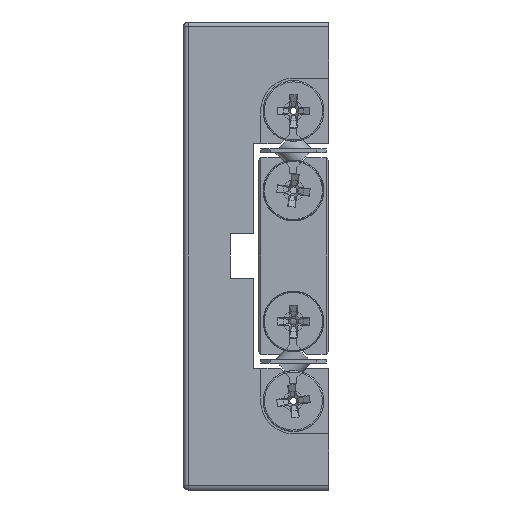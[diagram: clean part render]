
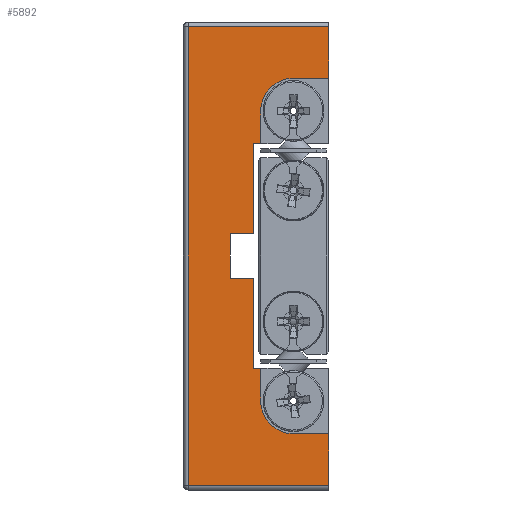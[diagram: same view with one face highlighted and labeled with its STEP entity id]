
A CAD part, left-side view. The second image highlights one B-rep face of the part: STEP entity #5892.
In plain terms, the highlighted planar face has unit normal (-1, 0, 0).
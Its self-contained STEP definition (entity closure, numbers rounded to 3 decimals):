
#22 = DIRECTION ( 'NONE',  ( 0., 0., -1. ) ) ;
#247 = EDGE_CURVE ( 'NONE', #16415, #3803, #748, .T. ) ;
#276 = DIRECTION ( 'NONE',  ( 0., 0., -1. ) ) ;
#320 = VECTOR ( 'NONE', #23312, 1000. ) ;
#398 = DIRECTION ( 'NONE',  ( 0., 0., -1. ) ) ;
#401 = VERTEX_POINT ( 'NONE', #5344 ) ;
#404 = ORIENTED_EDGE ( 'NONE', *, *, #6374, .F. ) ;
#555 = VERTEX_POINT ( 'NONE', #12155 ) ;
#748 = CIRCLE ( 'NONE', #1027, 7. ) ;
#926 = VECTOR ( 'NONE', #24971, 1000. ) ;
#934 = CARTESIAN_POINT ( 'NONE',  ( -248.819, 51.779, 4.75 ) ) ;
#1024 = DIRECTION ( 'NONE',  ( 0., 1., 0. ) ) ;
#1027 = AXIS2_PLACEMENT_3D ( 'NONE', #18442, #22848, #18034 ) ;
#1187 = LINE ( 'NONE', #26079, #22745 ) ;
#1247 = CARTESIAN_POINT ( 'NONE',  ( -248.819, 50.279, 31. ) ) ;
#1712 = LINE ( 'NONE', #10608, #23287 ) ;
#1917 = VERTEX_POINT ( 'NONE', #22207 ) ;
#2219 = ORIENTED_EDGE ( 'NONE', *, *, #21297, .F. ) ;
#2349 = CARTESIAN_POINT ( 'NONE',  ( -248.819, 66.779, -49. ) ) ;
#2565 = CARTESIAN_POINT ( 'NONE',  ( -248.819, 56.779, -4.75 ) ) ;
#2797 = CARTESIAN_POINT ( 'NONE',  ( -248.819, 51.779, -4.75 ) ) ;
#3067 = VERTEX_POINT ( 'NONE', #934 ) ;
#3151 = ORIENTED_EDGE ( 'NONE', *, *, #12733, .T. ) ;
#3214 = VERTEX_POINT ( 'NONE', #9626 ) ;
#3320 = DIRECTION ( 'NONE',  ( 0., 0., -1. ) ) ;
#3615 = EDGE_CURVE ( 'NONE', #24808, #555, #5161, .T. ) ;
#3640 = VERTEX_POINT ( 'NONE', #23954 ) ;
#3782 = LINE ( 'NONE', #2565, #25386 ) ;
#3803 = VERTEX_POINT ( 'NONE', #12165 ) ;
#4133 = VERTEX_POINT ( 'NONE', #15377 ) ;
#4329 = ORIENTED_EDGE ( 'NONE', *, *, #15708, .F. ) ;
#4439 = DIRECTION ( 'NONE',  ( 0., -1., 0. ) ) ;
#4633 = DIRECTION ( 'NONE',  ( 0., 0., -1. ) ) ;
#4756 = ORIENTED_EDGE ( 'NONE', *, *, #7837, .F. ) ;
#5156 = EDGE_CURVE ( 'NONE', #555, #10830, #1187, .T. ) ;
#5161 = LINE ( 'NONE', #13492, #10706 ) ;
#5177 = VERTEX_POINT ( 'NONE', #9394 ) ;
#5344 = CARTESIAN_POINT ( 'NONE',  ( -248.819, 35.779, -49. ) ) ;
#5518 = CARTESIAN_POINT ( 'NONE',  ( -248.819, 43.279, -31. ) ) ;
#5780 = CARTESIAN_POINT ( 'NONE',  ( -248.819, 56.779, -4.75 ) ) ;
#5815 = CARTESIAN_POINT ( 'NONE',  ( -248.819, 43.279, 38. ) ) ;
#5892 = ADVANCED_FACE ( 'NONE', ( #16788 ), #16843, .F. ) ;
#5953 = EDGE_CURVE ( 'NONE', #17333, #5177, #26654, .T. ) ;
#6089 = CARTESIAN_POINT ( 'NONE',  ( -248.819, 65.779, -49. ) ) ;
#6203 = DIRECTION ( 'NONE',  ( 0., 0., -1. ) ) ;
#6270 = CARTESIAN_POINT ( 'NONE',  ( -248.819, 50.279, -31. ) ) ;
#6374 = EDGE_CURVE ( 'NONE', #16834, #1917, #10714, .T. ) ;
#6403 = ORIENTED_EDGE ( 'NONE', *, *, #15424, .F. ) ;
#7254 = CARTESIAN_POINT ( 'NONE',  ( -248.819, 56.779, 4.75 ) ) ;
#7644 = CARTESIAN_POINT ( 'NONE',  ( -248.819, 50.279, 24. ) ) ;
#7651 = DIRECTION ( 'NONE',  ( 0., 0., 1. ) ) ;
#7790 = VECTOR ( 'NONE', #22, 1000. ) ;
#7837 = EDGE_CURVE ( 'NONE', #5177, #3640, #24459, .T. ) ;
#8143 = LINE ( 'NONE', #2797, #13664 ) ;
#8914 = ORIENTED_EDGE ( 'NONE', *, *, #14660, .F. ) ;
#9362 = EDGE_CURVE ( 'NONE', #3214, #24808, #18799, .T. ) ;
#9394 = CARTESIAN_POINT ( 'NONE',  ( -248.819, 50.279, -24. ) ) ;
#9538 = CIRCLE ( 'NONE', #26487, 7. ) ;
#9626 = CARTESIAN_POINT ( 'NONE',  ( -248.819, 35.779, 38. ) ) ;
#10264 = ORIENTED_EDGE ( 'NONE', *, *, #22118, .F. ) ;
#10313 = EDGE_CURVE ( 'NONE', #24350, #17333, #20717, .T. ) ;
#10608 = CARTESIAN_POINT ( 'NONE',  ( -248.819, 56.779, 4.75 ) ) ;
#10706 = VECTOR ( 'NONE', #17898, 1000. ) ;
#10714 = LINE ( 'NONE', #14340, #21206 ) ;
#10830 = VERTEX_POINT ( 'NONE', #6089 ) ;
#10951 = VECTOR ( 'NONE', #1024, 1000. ) ;
#11080 = VECTOR ( 'NONE', #3320, 1000. ) ;
#11387 = DIRECTION ( 'NONE',  ( 0., 0., -1. ) ) ;
#11554 = ORIENTED_EDGE ( 'NONE', *, *, #10313, .F. ) ;
#11605 = LINE ( 'NONE', #26087, #10951 ) ;
#11986 = LINE ( 'NONE', #22854, #926 ) ;
#12004 = CARTESIAN_POINT ( 'NONE',  ( -248.819, 35.779, -50. ) ) ;
#12155 = CARTESIAN_POINT ( 'NONE',  ( -248.819, 65.779, 49. ) ) ;
#12165 = CARTESIAN_POINT ( 'NONE',  ( -248.819, 50.279, 31. ) ) ;
#12291 = AXIS2_PLACEMENT_3D ( 'NONE', #21070, #12707, #276 ) ;
#12689 = DIRECTION ( 'NONE',  ( 0., 1., 0. ) ) ;
#12707 = DIRECTION ( 'NONE',  ( 1., 0., 0. ) ) ;
#12733 = EDGE_CURVE ( 'NONE', #10830, #401, #26488, .T. ) ;
#12765 = ORIENTED_EDGE ( 'NONE', *, *, #5156, .T. ) ;
#12893 = CARTESIAN_POINT ( 'NONE',  ( -248.819, 35.779, -24. ) ) ;
#13205 = VECTOR ( 'NONE', #16225, 1000. ) ;
#13492 = CARTESIAN_POINT ( 'NONE',  ( -248.819, 66.779, 49. ) ) ;
#13516 = CARTESIAN_POINT ( 'NONE',  ( -248.819, 35.779, 49. ) ) ;
#13664 = VECTOR ( 'NONE', #19526, 1000. ) ;
#13986 = VERTEX_POINT ( 'NONE', #7644 ) ;
#14340 = CARTESIAN_POINT ( 'NONE',  ( -248.819, 43.279, -38. ) ) ;
#14499 = CARTESIAN_POINT ( 'NONE',  ( -248.819, 51.779, -24. ) ) ;
#14603 = ORIENTED_EDGE ( 'NONE', *, *, #17596, .T. ) ;
#14660 = EDGE_CURVE ( 'NONE', #4133, #3067, #25603, .T. ) ;
#14830 = ORIENTED_EDGE ( 'NONE', *, *, #9362, .T. ) ;
#15377 = CARTESIAN_POINT ( 'NONE',  ( -248.819, 51.779, 24. ) ) ;
#15424 = EDGE_CURVE ( 'NONE', #3640, #16834, #9538, .T. ) ;
#15708 = EDGE_CURVE ( 'NONE', #3067, #26063, #1712, .T. ) ;
#16225 = DIRECTION ( 'NONE',  ( 0., 0., 1. ) ) ;
#16289 = LINE ( 'NONE', #21207, #320 ) ;
#16415 = VERTEX_POINT ( 'NONE', #5815 ) ;
#16444 = DIRECTION ( 'NONE',  ( 0., -1., 0. ) ) ;
#16788 = FACE_OUTER_BOUND ( 'NONE', #19010, .T. ) ;
#16834 = VERTEX_POINT ( 'NONE', #20442 ) ;
#16843 = PLANE ( 'NONE',  #12291 ) ;
#16910 = ORIENTED_EDGE ( 'NONE', *, *, #19654, .F. ) ;
#17050 = CARTESIAN_POINT ( 'NONE',  ( -248.819, 51.779, 4.75 ) ) ;
#17333 = VERTEX_POINT ( 'NONE', #24525 ) ;
#17596 = EDGE_CURVE ( 'NONE', #401, #1917, #16289, .T. ) ;
#17890 = ORIENTED_EDGE ( 'NONE', *, *, #247, .F. ) ;
#17898 = DIRECTION ( 'NONE',  ( 0., 1., 0. ) ) ;
#18034 = DIRECTION ( 'NONE',  ( 0., 0., -1. ) ) ;
#18091 = ORIENTED_EDGE ( 'NONE', *, *, #5953, .F. ) ;
#18360 = ORIENTED_EDGE ( 'NONE', *, *, #19292, .F. ) ;
#18442 = CARTESIAN_POINT ( 'NONE',  ( -248.819, 43.279, 31. ) ) ;
#18799 = LINE ( 'NONE', #12004, #13205 ) ;
#19010 = EDGE_LOOP ( 'NONE', ( #12765, #3151, #14603, #404, #6403, #4756, #18091, #11554, #2219, #16910, #4329, #8914, #10264, #23797, #17890, #18360, #14830, #20353 ) ) ;
#19292 = EDGE_CURVE ( 'NONE', #3214, #16415, #11605, .T. ) ;
#19355 = VECTOR ( 'NONE', #398, 1000. ) ;
#19526 = DIRECTION ( 'NONE',  ( 0., -1., 0. ) ) ;
#19654 = EDGE_CURVE ( 'NONE', #26063, #21526, #3782, .T. ) ;
#19888 = CARTESIAN_POINT ( 'NONE',  ( -248.819, 51.779, -4.75 ) ) ;
#20062 = VECTOR ( 'NONE', #6203, 1000. ) ;
#20174 = DIRECTION ( 'NONE',  ( -1., 0., 0. ) ) ;
#20263 = VECTOR ( 'NONE', #4439, 1000. ) ;
#20353 = ORIENTED_EDGE ( 'NONE', *, *, #3615, .T. ) ;
#20442 = CARTESIAN_POINT ( 'NONE',  ( -248.819, 43.279, -38. ) ) ;
#20444 = EDGE_CURVE ( 'NONE', #3803, #13986, #22240, .T. ) ;
#20717 = LINE ( 'NONE', #14499, #20062 ) ;
#21070 = CARTESIAN_POINT ( 'NONE',  ( -248.819, 66.779, -50. ) ) ;
#21206 = VECTOR ( 'NONE', #16444, 1000. ) ;
#21207 = CARTESIAN_POINT ( 'NONE',  ( -248.819, 35.779, -50. ) ) ;
#21297 = EDGE_CURVE ( 'NONE', #21526, #24350, #8143, .T. ) ;
#21328 = DIRECTION ( 'NONE',  ( 0., -1., 0. ) ) ;
#21526 = VERTEX_POINT ( 'NONE', #5780 ) ;
#22118 = EDGE_CURVE ( 'NONE', #13986, #4133, #11986, .T. ) ;
#22207 = CARTESIAN_POINT ( 'NONE',  ( -248.819, 35.779, -38. ) ) ;
#22240 = LINE ( 'NONE', #1247, #11080 ) ;
#22745 = VECTOR ( 'NONE', #11387, 1000. ) ;
#22848 = DIRECTION ( 'NONE',  ( -1., 0., 0. ) ) ;
#22854 = CARTESIAN_POINT ( 'NONE',  ( -248.819, 51.779, 24. ) ) ;
#23287 = VECTOR ( 'NONE', #12689, 1000. ) ;
#23312 = DIRECTION ( 'NONE',  ( 0., 0., 1. ) ) ;
#23797 = ORIENTED_EDGE ( 'NONE', *, *, #20444, .F. ) ;
#23954 = CARTESIAN_POINT ( 'NONE',  ( -248.819, 50.279, -31. ) ) ;
#24350 = VERTEX_POINT ( 'NONE', #19888 ) ;
#24459 = LINE ( 'NONE', #6270, #7790 ) ;
#24525 = CARTESIAN_POINT ( 'NONE',  ( -248.819, 51.779, -24. ) ) ;
#24808 = VERTEX_POINT ( 'NONE', #13516 ) ;
#24971 = DIRECTION ( 'NONE',  ( 0., 1., 0. ) ) ;
#25386 = VECTOR ( 'NONE', #4633, 1000. ) ;
#25603 = LINE ( 'NONE', #17050, #19355 ) ;
#25995 = VECTOR ( 'NONE', #21328, 1000. ) ;
#26063 = VERTEX_POINT ( 'NONE', #7254 ) ;
#26079 = CARTESIAN_POINT ( 'NONE',  ( -248.819, 65.779, -50. ) ) ;
#26087 = CARTESIAN_POINT ( 'NONE',  ( -248.819, 43.279, 38. ) ) ;
#26487 = AXIS2_PLACEMENT_3D ( 'NONE', #5518, #20174, #7651 ) ;
#26488 = LINE ( 'NONE', #2349, #20263 ) ;
#26654 = LINE ( 'NONE', #12893, #25995 ) ;
